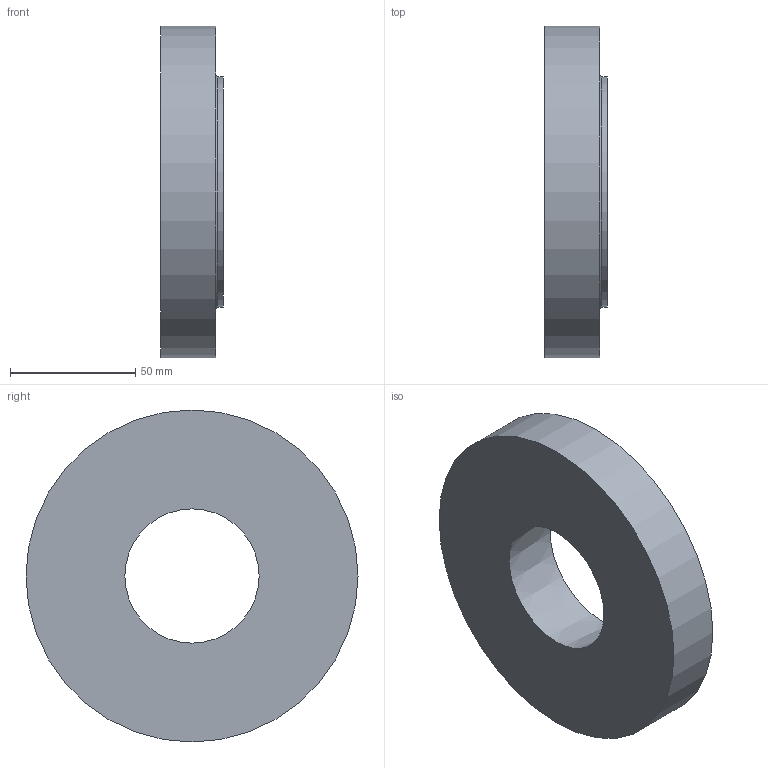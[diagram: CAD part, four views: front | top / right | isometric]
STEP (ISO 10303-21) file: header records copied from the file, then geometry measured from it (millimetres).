
FILE_DESCRIPTION(/* description */ (''),/* implementation_level */ '2;1');
FILE_NAME(/* name */ 'C:\Users\stagistaCAD\Desktop\41215090.stp',/* time_stamp */ '2018-06-18T12:04:33+02:00',/* author */ ('stagistacad'),/* organization */ (''),/* preprocessor_version */ 'ST-DEVELOPER v15.6',/* originating_system */ 'Autodesk Inventor 2015',/* authorisation */ '');
FILE_SCHEMA (('AUTOMOTIVE_DESIGN { 1 0 10303 214 3 1 1 }'));
Length unit declared in the file: millimetre
Products named in the file (1): 41215090
Bounding box: 25 x 132.54 x 132.54 mm (x, y, z)
Volume: 263426.1 mm3; surface area: 37068.4 mm2
Topology: 1 solids, 1 shells, 7 faces, 11 edges, 7 vertices
Faces by surface type: plane 3, cylinder 2, cone 1, torus 1
Full cylindrical faces by diameter (mm): 92 x1, 132.545 x1
Entity records: 172 total; most frequent: DIRECTION 30, CARTESIAN_POINT 22, AXIS2_PLACEMENT_3D 15, EDGE_LOOP 14, ORIENTED_EDGE 14, FACE_BOUND 7, FACE_OUTER_BOUND 7, CIRCLE 7
